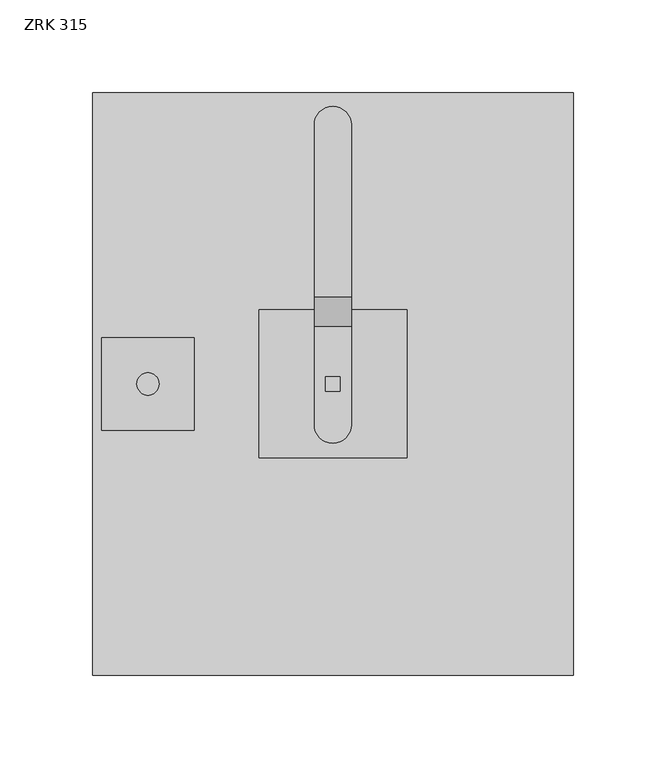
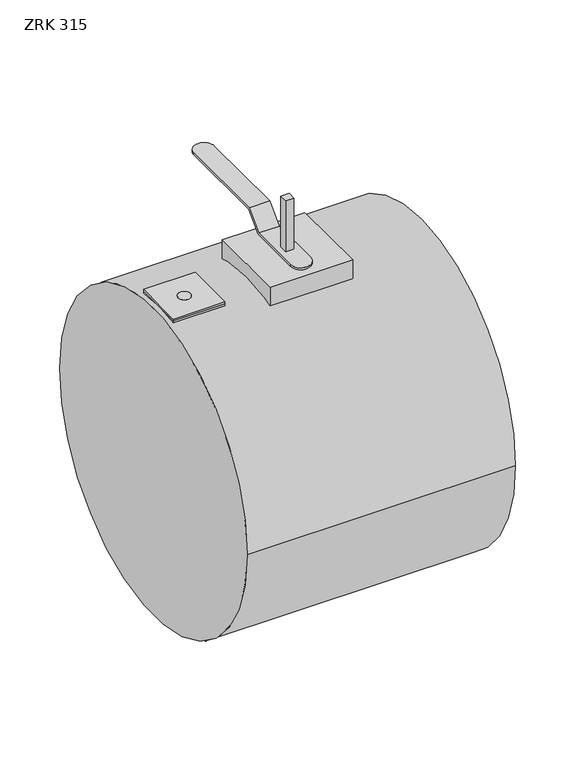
"""IFC4 building model written with IfcOpenShell, lengths in millimetres: damper geometry, KORF_Заслонка_Круглая_ZRK_Ручка : ZRK 315."""

from ifc_helpers import new_model, si_unit, point, frame, frame_2d, origin, origin_2d, place, context, project, spatial, polyline, circle_curve, trimmed, segment, composite_curve, outline, extrude, source, transform, mapped, element, save
from ifc_brep_helpers import plane_surface, cylinder_surface, revolved_surface, advanced_brep


def zrk_315_1ff1c822(model_context):
    return source(origin(), model_context, "Body", "SolidModel", [
        extrude(outline(composite_curve([segment(trimmed(circle_curve(frame_2d((30.0, 0.0)), 6.0), [point((36.0, 0.0))], [point((24.0, 0.0))], False, "CARTESIAN"), True, "CONTINUOUS"), segment(trimmed(circle_curve(frame_2d((30.0, 0.0)), 6.0), [point((24.0, 0.0))], [point((36.0, 0.0))], False, "CARTESIAN"), True, "CONTINUOUS")], self_intersect=False)), frame((0.0, 0.0, 157.5), z_axis=(0.0, 0.0, 1.0), x_axis=(1.0, 0.0, 0.0)), (0.0, 0.0, 1.0), 2.0),
        extrude(outline(polyline([(55.0, 25.0), (55.0, -25.0), (5.0, -25.0), (5.0, 25.0), (55.0, 25.0)]), holes=[composite_curve([segment(trimmed(circle_curve(frame_2d((30.0, 0.0)), 6.0), [point((24.0, 0.0))], [point((36.0, 0.0))], True, "CARTESIAN"), True, "CONTINUOUS"), segment(trimmed(circle_curve(frame_2d((30.0, 0.0)), 6.0), [point((36.0, 0.0))], [point((24.0, 0.0))], True, "CARTESIAN"), True, "CONTINUOUS")], self_intersect=False)]), frame((0.0, 0.0, 157.5), z_axis=(0.0, 0.0, 1.0), x_axis=(1.0, 0.0, 0.0)), (0.0, 0.0, 1.0), 2.0),
        extrude(outline(composite_curve([segment(trimmed(circle_curve(origin_2d(), 157.5), [point((-157.5, 0.0))], [point((157.5, 0.0))], False, "CARTESIAN"), True, "CONTINUOUS"), segment(trimmed(circle_curve(origin_2d(), 157.5), [point((157.5, 0.0))], [point((-157.5, 0.0))], False, "CARTESIAN"), True, "CONTINUOUS")], self_intersect=False)), frame((0.0, 0.0, 0.0), z_axis=(1.0, 0.0, 0.0), x_axis=(0.0, 1.0, 0.0)), (0.0, 0.0, 1.0), 260.0),
        advanced_brep(
        [(55.0, 25.0, 157.5), (5.0, 25.0, 157.5), (5.0, 0.0, 157.5), (5.0, -25.0, 157.5), (55.0, -25.0, 157.5), (55.0, 0.0, 157.5), (55.0, 25.0, 155.5032154), (5.0, 25.0, 155.5032154), (5.0, -25.0, 155.5032154), (55.0, -25.0, 155.5032154)],
        [
            (0, 1),
            (1, 2),
            (2, 3),
            (3, 4),
            (4, 5),
            (5, 0),
            (0, 6),
            (6, 7),
            (7, 1),
            (7, 2, circle_curve(frame((5.0, 0.0, 0.0), z_axis=(1.0, 0.0, 0.0), x_axis=(0.0, 0.0, -1.0)), 157.5)),
            (2, 8, circle_curve(frame((5.0, 0.0, 0.0), z_axis=(1.0, 0.0, 0.0), x_axis=(0.0, 0.0, -1.0)), 157.5)),
            (8, 3),
            (8, 9),
            (9, 4),
            (9, 5, circle_curve(frame((55.0, 0.0, 0.0), z_axis=(-1.0, 0.0, 0.0), x_axis=(0.0, 0.0, -1.0)), 157.5)),
            (5, 6, circle_curve(frame((55.0, 0.0, 0.0), z_axis=(-1.0, 0.0, 0.0), x_axis=(0.0, 0.0, -1.0)), 157.5)),
        ],
        [
            plane_surface(frame((5.0, 25.0, 157.5), z_axis=(0.0, 0.0, 1.0), x_axis=(-1.0, 0.0, 0.0))),
            plane_surface(frame((55.0, 25.0, 157.5), z_axis=(0.0, 1.0, 0.0), x_axis=(0.0, 0.0, -1.0))),
            plane_surface(frame((5.0, 25.0, 157.5), z_axis=(-1.0, 0.0, 0.0), x_axis=(0.0, 0.0, -1.0))),
            plane_surface(frame((5.0, -25.0, 157.5), z_axis=(0.0, -1.0, 0.0), x_axis=(0.0, 0.0, -1.0))),
            plane_surface(frame((55.0, -25.0, 157.5), z_axis=(1.0, 0.0, 0.0), x_axis=(0.0, 0.0, -1.0))),
            revolved_surface(polyline([(5.0, 0.0, -157.5), (55.0, 0.0, -157.5)]), (260.0, 0.0, 0.0), (-1.0, 0.0, 0.0)),
        ],
        [
            (0, [[1, 2, 3, 4, 5, 6]]),
            (1, [[-1, 7, 8, 9]]),
            (2, [[-2, -9, 10]]),
            (2, [[-3, 11, 12]]),
            (3, [[-4, -12, 13, 14]]),
            (4, [[-5, -14, 15]]),
            (4, [[-6, 16, -7]]),
            (5, [[-8, -16, -15, -13, -11, -10]]),
        ],
    ),
        extrude(outline(composite_curve([segment(polyline([(-4.0, 225.5), (4.0, 225.5), (4.0, 157.4491982)]), True, "CONTINUOUS"), segment(trimmed(circle_curve(origin_2d(), 157.5), [point((4.0, 157.4491982))], [point((-4.0, 157.4491982))], True, "CARTESIAN"), True, "CONTINUOUS"), segment(polyline([(-4.0, 157.4491982), (-4.0, 225.5)]), True, "CONTINUOUS")], self_intersect=False)), frame((126.0, 0.0, 0.0), z_axis=(1.0, 0.0, 0.0), x_axis=(0.0, 1.0, 0.0)), (0.0, 0.0, 1.0), 8.0),
        advanced_brep(
        [(120.0, 48.0, 187.5), (120.0, 32.0, 171.5), (120.0, -22.0, 171.5), (120.0, -22.0, 173.5), (120.0, 31.1715729, 173.5), (120.0, 47.1715729, 189.5), (120.0, 140.0, 189.5), (120.0, 140.0, 187.5), (140.0, 47.1715729, 189.5), (140.0, 31.1715729, 173.5), (140.0, -22.0, 173.5), (140.0, -22.0, 171.5), (140.0, 32.0, 171.5), (140.0, 48.0, 187.5), (140.0, 140.0, 187.5), (140.0, 140.0, 189.5), (130.0, 150.0, 187.5), (130.0, 150.0, 189.5), (130.0, -32.0, 173.5), (126.0, 4.0, 173.5), (134.0, 4.0, 173.5), (134.0, -4.0, 173.5), (126.0, -4.0, 173.5), (130.0, -32.0, 171.5), (134.0, 4.0, 171.5), (126.0, 4.0, 171.5), (126.0, -4.0, 171.5), (134.0, -4.0, 171.5)],
        [
            (0, 1),
            (1, 2),
            (2, 3),
            (3, 4),
            (4, 5),
            (5, 6),
            (6, 7),
            (7, 0),
            (8, 9),
            (9, 10),
            (10, 11),
            (11, 12),
            (12, 13),
            (13, 14),
            (14, 15),
            (15, 8),
            (13, 0),
            (7, 16, circle_curve(frame((130.0, 140.0, 187.5), z_axis=(0.0, 0.0, -1.0), x_axis=(1.0, 0.0, 0.0)), 10.0)),
            (16, 14, circle_curve(frame((130.0, 140.0, 187.5), z_axis=(0.0, 0.0, -1.0), x_axis=(1.0, 0.0, 0.0)), 10.0)),
            (5, 8),
            (15, 17, circle_curve(frame((130.0, 140.0, 189.5), z_axis=(0.0, 0.0, 1.0), x_axis=(1.0, 0.0, 0.0)), 10.0)),
            (17, 6, circle_curve(frame((130.0, 140.0, 189.5), z_axis=(0.0, 0.0, 1.0), x_axis=(1.0, 0.0, 0.0)), 10.0)),
            (4, 9),
            (3, 18, circle_curve(frame((130.0, -22.0, 173.5), z_axis=(0.0, 0.0, 1.0), x_axis=(1.0, 0.0, 0.0)), 10.0)),
            (18, 10, circle_curve(frame((130.0, -22.0, 173.5), z_axis=(0.0, 0.0, 1.0), x_axis=(1.0, 0.0, 0.0)), 10.0)),
            (19, 20),
            (20, 21),
            (21, 22),
            (22, 19),
            (1, 12),
            (11, 23, circle_curve(frame((130.0, -22.0, 171.5), z_axis=(0.0, 0.0, -1.0), x_axis=(1.0, 0.0, 0.0)), 10.0)),
            (23, 2, circle_curve(frame((130.0, -22.0, 171.5), z_axis=(0.0, 0.0, -1.0), x_axis=(1.0, 0.0, 0.0)), 10.0)),
            (24, 25),
            (25, 26),
            (26, 27),
            (27, 24),
            (24, 20),
            (19, 25),
            (22, 26),
            (21, 27),
        ],
        [
            plane_surface(frame((120.0, 150.0, 187.5), z_axis=(-1.0, 0.0, 0.0), x_axis=(0.0, -1.0, 0.0))),
            plane_surface(frame((140.0, 150.0, 187.5), z_axis=(1.0, 0.0, 0.0), x_axis=(0.0, 1.0, 0.0))),
            plane_surface(frame((140.0, 48.0, 187.5), z_axis=(0.0, 0.0, -1.0), x_axis=(-1.0, 0.0, 0.0))),
            plane_surface(frame((140.0, 150.0, 189.5), z_axis=(0.0, 0.0, 1.0), x_axis=(-1.0, 0.0, 0.0))),
            plane_surface(frame((140.0, 47.1715729, 189.5), z_axis=(0.0, -0.7071067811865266, 0.7071067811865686), x_axis=(-1.0, 0.0, 0.0))),
            plane_surface(frame((140.0, 31.1715729, 173.5), z_axis=(0.0, 0.0, 1.0), x_axis=(-1.0, 0.0, 0.0))),
            plane_surface(frame((140.0, -32.0, 171.5), z_axis=(0.0, 0.0, -1.0), x_axis=(-1.0, 0.0, 0.0))),
            plane_surface(frame((140.0, 32.0, 171.5), z_axis=(0.0, 0.707106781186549, -0.707106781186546), x_axis=(-1.0, 0.0, 0.0))),
            plane_surface(frame((134.0, 4.0, 187.5), z_axis=(0.0, -1.0, 0.0), x_axis=(0.0, 0.0, -1.0))),
            plane_surface(frame((126.0, 4.0, 187.5), z_axis=(1.0, 0.0, 0.0), x_axis=(0.0, 0.0, -1.0))),
            plane_surface(frame((126.0, -4.0, 187.5), z_axis=(0.0, 1.0, 0.0), x_axis=(0.0, 0.0, -1.0))),
            plane_surface(frame((134.0, -4.0, 187.5), z_axis=(-1.0, 0.0, 0.0), x_axis=(0.0, 0.0, -1.0))),
            cylinder_surface(frame((130.0, 140.0, 171.5), z_axis=(0.0, 0.0, -1.0), x_axis=(1.0, 0.0, 0.0)), 10.0),
            cylinder_surface(frame((130.0, -22.0, 0.0), z_axis=(0.0, 0.0, -1.0), x_axis=(1.0, 0.0, 0.0)), 10.0),
        ],
        [
            (0, [[1, 2, 3, 4, 5, 6, 7, 8]]),
            (1, [[9, 10, 11, 12, 13, 14, 15, 16]]),
            (2, [[17, -8, 18, 19, -14]]),
            (3, [[20, -16, 21, 22, -6]]),
            (4, [[-5, 23, -9, -20]]),
            (5, [[-23, -4, 24, 25, -10], [26, 27, 28, 29]]),
            (6, [[30, -12, 31, 32, -2], [33, 34, 35, 36]]),
            (7, [[-1, -17, -13, -30]]),
            (8, [[37, -26, 38, -33]]),
            (9, [[-38, -29, 39, -34]]),
            (10, [[-39, -28, 40, -35]]),
            (11, [[-37, -36, -40, -27]]),
            (12, [[-7, -22, -21, -15, -19, -18]]),
            (13, [[-3, -32, -31, -11, -25, -24]]),
        ],
    ),
        advanced_brep(
        [(170.0, 40.0, 171.5), (90.0, 40.0, 171.5), (90.0, -40.0, 171.5), (170.0, -40.0, 171.5), (126.0, 4.0, 171.5), (134.0, 4.0, 171.5), (134.0, -4.0, 171.5), (126.0, -4.0, 171.5), (170.0, 40.0, 152.3359774), (90.0, 40.0, 152.3359774), (90.0, -40.0, 152.3359774), (170.0, -40.0, 152.3359774), (134.0, 4.0, 157.4491982), (126.0, 4.0, 157.4491982), (126.0, -4.0, 157.4491982), (134.0, -4.0, 157.4491982)],
        [
            (0, 1),
            (1, 2),
            (2, 3),
            (3, 0),
            (4, 5),
            (5, 6),
            (6, 7),
            (7, 4),
            (0, 8),
            (8, 9),
            (9, 1),
            (9, 10, circle_curve(frame((90.0, 0.0, 0.0), z_axis=(1.0, 0.0, 0.0), x_axis=(0.0, 0.0, -1.0)), 157.5)),
            (10, 2),
            (10, 11),
            (11, 3),
            (11, 8, circle_curve(frame((170.0, 0.0, 0.0), z_axis=(-1.0, 0.0, 0.0), x_axis=(0.0, 0.0, -1.0)), 157.5)),
            (12, 13),
            (13, 14, circle_curve(frame((126.0, 0.0, 0.0), z_axis=(1.0, 0.0, 0.0), x_axis=(0.0, 0.0, -1.0)), 157.5)),
            (14, 15),
            (15, 12, circle_curve(frame((134.0, 0.0, 0.0), z_axis=(-1.0, 0.0, 0.0), x_axis=(0.0, 0.0, -1.0)), 157.5)),
            (12, 5),
            (4, 13),
            (7, 14),
            (6, 15),
        ],
        [
            plane_surface(frame((90.0, 40.0, 171.5), z_axis=(0.0, 0.0, 1.0), x_axis=(-1.0, 0.0, 0.0))),
            plane_surface(frame((170.0, 40.0, 171.5), z_axis=(0.0, 1.0, 0.0), x_axis=(0.0, 0.0, -1.0))),
            plane_surface(frame((90.0, 40.0, 171.5), z_axis=(-1.0, 0.0, 0.0), x_axis=(0.0, 0.0, -1.0))),
            plane_surface(frame((90.0, -40.0, 171.5), z_axis=(0.0, -1.0, 0.0), x_axis=(0.0, 0.0, -1.0))),
            plane_surface(frame((170.0, -40.0, 171.5), z_axis=(1.0, 0.0, 0.0), x_axis=(0.0, 0.0, -1.0))),
            revolved_surface(polyline([(90.0, 0.0, -157.5), (170.0, 0.0, -157.5)]), (260.0, 0.0, 0.0), (-1.0, 0.0, 0.0)),
            plane_surface(frame((134.0, 4.0, 187.5), z_axis=(0.0, -1.0, 0.0), x_axis=(0.0, 0.0, -1.0))),
            plane_surface(frame((126.0, 4.0, 187.5), z_axis=(1.0, 0.0, 0.0), x_axis=(0.0, 0.0, -1.0))),
            plane_surface(frame((126.0, -4.0, 187.5), z_axis=(0.0, 1.0, 0.0), x_axis=(0.0, 0.0, -1.0))),
            plane_surface(frame((134.0, -4.0, 187.5), z_axis=(-1.0, 0.0, 0.0), x_axis=(0.0, 0.0, -1.0))),
        ],
        [
            (0, [[1, 2, 3, 4], [5, 6, 7, 8]]),
            (1, [[-1, 9, 10, 11]]),
            (2, [[-2, -11, 12, 13]]),
            (3, [[-3, -13, 14, 15]]),
            (4, [[-4, -15, 16, -9]]),
            (5, [[-10, -16, -14, -12], [17, 18, 19, 20]]),
            (6, [[21, -5, 22, -17]]),
            (7, [[-22, -8, 23, -18]]),
            (8, [[-23, -7, 24, -19]]),
            (9, [[-21, -20, -24, -6]]),
        ],
    ),
    ])


if __name__ == "__main__":
    model = new_model("IFC4")
    model_context = context("Model", 3, world=origin())
    ifc_project = project(units=[si_unit("LENGTHUNIT", "METRE", prefix="MILLI")], contexts=[model_context])
    site = spatial("IfcSite", under=ifc_project)
    building = spatial("IfcBuilding", under=site)
    placement = place(None, origin())
    zrk_315_shape = zrk_315_1ff1c822(model_context)
    element("IfcDamper", 1, ObjectType="KORF_Заслонка_Круглая_ZRK_Ручка : ZRK 315", at=placement, inside=building, context=model_context, shape_type="MappedRepresentation", body=[
        mapped(zrk_315_shape, transform((0.0, 0.0, 0.0), x_axis=(1.0, 0.0, 0.0), y_axis=(0.0, 1.0, 0.0), z_axis=(0.0, 0.0, 1.0))),
    ])
    save(model, "model.ifc")
